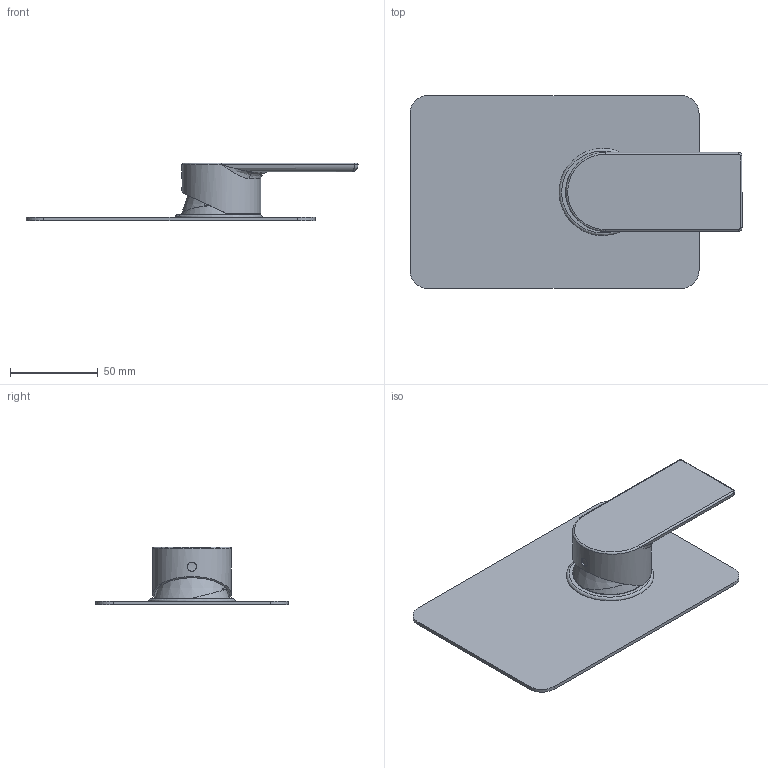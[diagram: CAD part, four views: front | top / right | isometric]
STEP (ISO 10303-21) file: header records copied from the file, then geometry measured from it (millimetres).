
FILE_DESCRIPTION (( 'STEP AP203' ), '1' );
FILE_NAME ('802235 x architetti.STEP', '2023-07-03T15:13:31', ( '' ), ( '' ), 'SwSTEP 2.0', 'SolidWorks 2020', '' );
FILE_SCHEMA (( 'CONFIG_CONTROL_DESIGN' ));
Length unit declared in the file: millimetre
Products named in the file (1): 802235 x architetti
Bounding box: 189.54 x 110 x 33 mm (x, y, z)
Volume: 94642.8 mm3; surface area: 52465.3 mm2
Topology: 1 solids, 4 shells, 73 faces, 171 edges, 108 vertices
Faces by surface type: plane 35, cylinder 22, bspline 8, cone 6, torus 2
Full cylindrical faces by diameter (mm): 5.2 x1, 25.7 x1, 26 x1, 34 x1, 37.8 x1, 41 x1, 42 x1, 42.4 x1, 45 x1
Entity records: 2877 total; most frequent: CARTESIAN_POINT 1301, DIRECTION 315, ORIENTED_EDGE 282, EDGE_CURVE 141, AXIS2_PLACEMENT_3D 128, EDGE_LOOP 97, VERTEX_POINT 96, FACE_OUTER_BOUND 83
